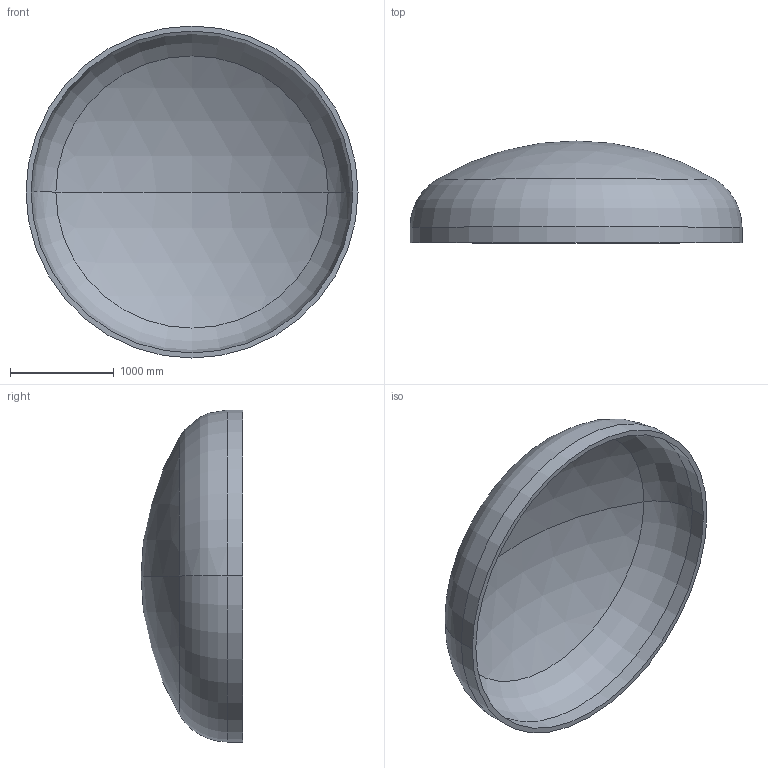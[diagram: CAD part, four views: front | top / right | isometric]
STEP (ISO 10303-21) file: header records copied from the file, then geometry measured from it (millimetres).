
FILE_DESCRIPTION (( 'STEP AP203' ), '1' );
FILE_NAME ('DIN 28013 Korbbogenform_-_Boden DIN 28013 - 3200 x 150 - I - s=49.step', '2016-07-01T18:42:01', ( '' ), ( '' ), 'SwSTEP 2.0', 'SolidWorks 2013', '' );
FILE_SCHEMA (( 'CONFIG_CONTROL_DESIGN' ));
Length unit declared in the file: millimetre
Products named in the file (1): DIN 28013 Korbbogenform_-_Boden DIN 28013 - 3200 x 150 - I - s=49
Bounding box: 3200 x 981.59 x 3200 mm (x, y, z)
Volume: 607031633.8 mm3; surface area: 25266880.3 mm2
Topology: 1 solids, 1 shells, 13 faces, 24 edges, 14 vertices
Faces by surface type: torus 4, cylinder 4, sphere 4, plane 1
Entity records: 407 total; most frequent: DIRECTION 72, CARTESIAN_POINT 52, ORIENTED_EDGE 48, AXIS2_PLACEMENT_3D 34, EDGE_CURVE 24, CIRCLE 20, EDGE_LOOP 14, VERTEX_POINT 14
